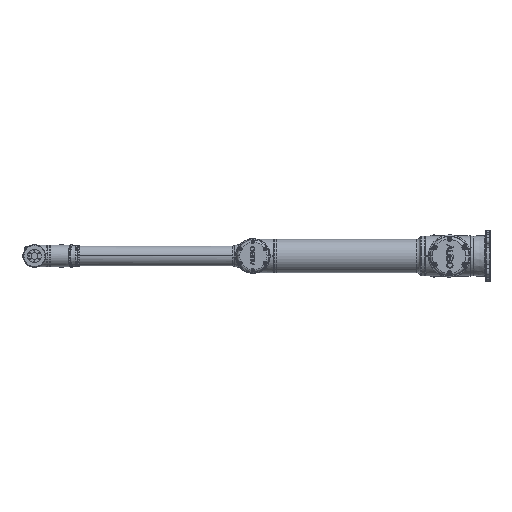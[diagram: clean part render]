
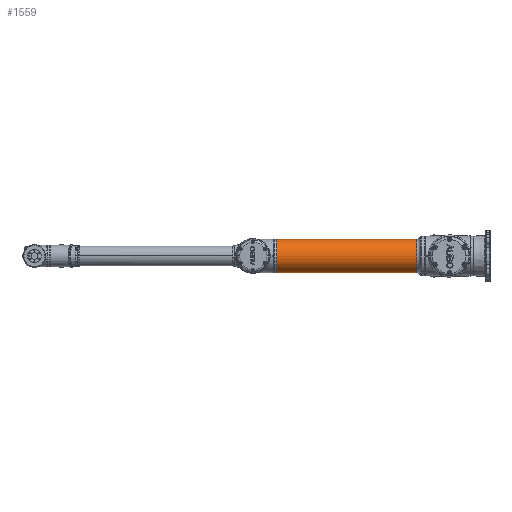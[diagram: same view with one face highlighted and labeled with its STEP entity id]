
A CAD part, left-side view. The second image highlights one B-rep face of the part: STEP entity #1559.
In plain terms, the highlighted cylindrical face has radius 76 mm (diameter 152 mm), a partial arc.
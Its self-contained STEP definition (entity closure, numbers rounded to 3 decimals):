
#914 = AXIS2_PLACEMENT_3D ( 'NONE', #107926, #15360, #16190 ) ;
#1559 = ADVANCED_FACE ( 'NONE', ( #165103 ), #49745, .T. ) ;
#5247 = CARTESIAN_POINT ( 'NONE',  ( -32.337, 19.137, 258.439 ) ) ;
#6766 = EDGE_CURVE ( 'NONE', #15211, #60920, #159249, .T. ) ;
#15211 = VERTEX_POINT ( 'NONE', #129745 ) ;
#15360 = DIRECTION ( 'NONE',  ( 0., 0., 1. ) ) ;
#16190 = DIRECTION ( 'NONE',  ( -1., 0., 0. ) ) ;
#21171 = DIRECTION ( 'NONE',  ( 0., 0., 1. ) ) ;
#23634 = DIRECTION ( 'NONE',  ( -1., 0., 0. ) ) ;
#35981 = DIRECTION ( 'NONE',  ( 0., 0., -1. ) ) ;
#37084 = DIRECTION ( 'NONE',  ( 0., 0., -1. ) ) ;
#48265 = EDGE_LOOP ( 'NONE', ( #56598, #64671, #51148, #90681 ) ) ;
#49745 = CYLINDRICAL_SURFACE ( 'NONE', #69917, 76. ) ;
#51148 = ORIENTED_EDGE ( 'NONE', *, *, #6766, .T. ) ;
#53078 = CARTESIAN_POINT ( 'NONE',  ( -108.337, 19.137, -383.161 ) ) ;
#56598 = ORIENTED_EDGE ( 'NONE', *, *, #160534, .F. ) ;
#58257 = DIRECTION ( 'NONE',  ( -1., 0., 0. ) ) ;
#60920 = VERTEX_POINT ( 'NONE', #53078 ) ;
#61167 = CARTESIAN_POINT ( 'NONE',  ( 43.663, 19.137, 308.439 ) ) ;
#64671 = ORIENTED_EDGE ( 'NONE', *, *, #131044, .F. ) ;
#68114 = VERTEX_POINT ( 'NONE', #156615 ) ;
#69560 = VERTEX_POINT ( 'NONE', #142062 ) ;
#69917 = AXIS2_PLACEMENT_3D ( 'NONE', #85965, #37084, #23634 ) ;
#71317 = LINE ( 'NONE', #61167, #142334 ) ;
#85965 = CARTESIAN_POINT ( 'NONE',  ( -32.337, 19.137, 308.439 ) ) ;
#90681 = ORIENTED_EDGE ( 'NONE', *, *, #143463, .T. ) ;
#98839 = VECTOR ( 'NONE', #35981, 1000. ) ;
#99934 = DIRECTION ( 'NONE',  ( 0., 0., -1. ) ) ;
#104808 = AXIS2_PLACEMENT_3D ( 'NONE', #5247, #21171, #58257 ) ;
#107926 = CARTESIAN_POINT ( 'NONE',  ( -32.337, 19.137, -383.161 ) ) ;
#129745 = CARTESIAN_POINT ( 'NONE',  ( -108.337, 19.137, 258.439 ) ) ;
#131044 = EDGE_CURVE ( 'NONE', #15211, #68114, #161183, .T. ) ;
#142062 = CARTESIAN_POINT ( 'NONE',  ( 43.663, 19.137, -383.161 ) ) ;
#142334 = VECTOR ( 'NONE', #99934, 1000. ) ;
#143463 = EDGE_CURVE ( 'NONE', #60920, #69560, #146143, .T. ) ;
#146143 = CIRCLE ( 'NONE', #914, 76. ) ;
#156615 = CARTESIAN_POINT ( 'NONE',  ( 43.663, 19.137, 258.439 ) ) ;
#159249 = LINE ( 'NONE', #164005, #98839 ) ;
#160534 = EDGE_CURVE ( 'NONE', #68114, #69560, #71317, .T. ) ;
#161183 = CIRCLE ( 'NONE', #104808, 76. ) ;
#164005 = CARTESIAN_POINT ( 'NONE',  ( -108.337, 19.137, 308.439 ) ) ;
#165103 = FACE_OUTER_BOUND ( 'NONE', #48265, .T. ) ;
